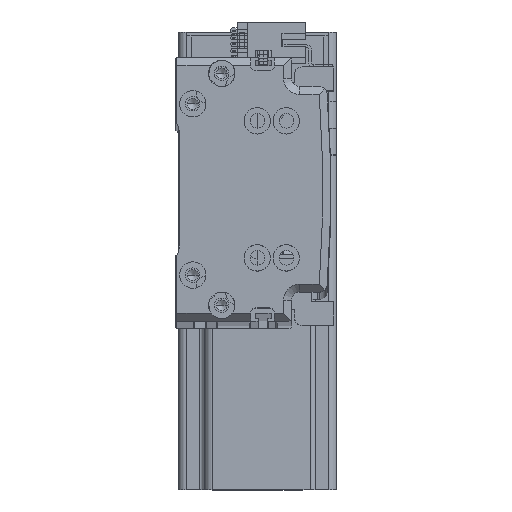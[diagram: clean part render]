
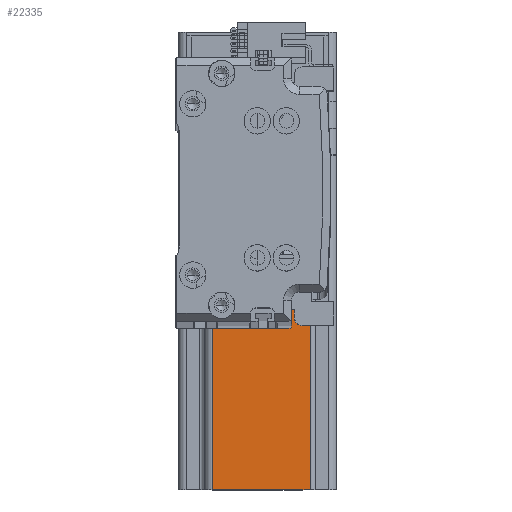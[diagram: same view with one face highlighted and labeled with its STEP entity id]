
A CAD part, top view. The second image highlights one B-rep face of the part: STEP entity #22335.
In plain terms, the highlighted planar face has unit normal (0, 0, 1) as drawn and (-1, 0, 0) by its records, which use the part's own axes.
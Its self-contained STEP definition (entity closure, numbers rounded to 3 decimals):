
#2361 = CARTESIAN_POINT ( 'NONE',  ( -30., 20., 10. ) ) ;
#2550 = EDGE_CURVE ( 'NONE', #15546, #46098, #4956, .T. ) ;
#2767 = DIRECTION ( 'NONE',  ( 1., 0., 0. ) ) ;
#2774 = ORIENTED_EDGE ( 'NONE', *, *, #22106, .T. ) ;
#3298 = VERTEX_POINT ( 'NONE', #4796 ) ;
#3593 = DIRECTION ( 'NONE',  ( 0., 1., 0. ) ) ;
#3695 = CARTESIAN_POINT ( 'NONE',  ( -30., 27., 0. ) ) ;
#4796 = CARTESIAN_POINT ( 'NONE',  ( -30., -17., 10. ) ) ;
#4956 = LINE ( 'NONE', #27091, #27059 ) ;
#6266 = DIRECTION ( 'NONE',  ( 0., 0., -1. ) ) ;
#8150 = EDGE_CURVE ( 'NONE', #3298, #56880, #13225, .T. ) ;
#9564 = DIRECTION ( 'NONE',  ( 0., 0., 1. ) ) ;
#11564 = LINE ( 'NONE', #47998, #60408 ) ;
#12725 = CARTESIAN_POINT ( 'NONE',  ( -30., 20., 137. ) ) ;
#13225 = LINE ( 'NONE', #27530, #59136 ) ;
#14078 = EDGE_CURVE ( 'NONE', #37913, #54744, #21524, .T. ) ;
#15133 = DIRECTION ( 'NONE',  ( 0., 0., 1. ) ) ;
#15182 = LINE ( 'NONE', #27011, #26270 ) ;
#15184 = ORIENTED_EDGE ( 'NONE', *, *, #2550, .T. ) ;
#15546 = VERTEX_POINT ( 'NONE', #2361 ) ;
#20332 = VECTOR ( 'NONE', #9564, 1000. ) ;
#21524 = LINE ( 'NONE', #56579, #45244 ) ;
#22106 = EDGE_CURVE ( 'NONE', #37931, #56880, #11564, .T. ) ;
#22335 = ADVANCED_FACE ( 'NONE', ( #26324 ), #35585, .F. ) ;
#23803 = CARTESIAN_POINT ( 'NONE',  ( -30., -17., 137. ) ) ;
#24975 = LINE ( 'NONE', #34506, #61256 ) ;
#25798 = DIRECTION ( 'NONE',  ( 0., -1., 0. ) ) ;
#26270 = VECTOR ( 'NONE', #31792, 1000. ) ;
#26324 = FACE_OUTER_BOUND ( 'NONE', #32175, .T. ) ;
#27011 = CARTESIAN_POINT ( 'NONE',  ( -30., 20., 10. ) ) ;
#27059 = VECTOR ( 'NONE', #3593, 1000. ) ;
#27091 = CARTESIAN_POINT ( 'NONE',  ( -30., 30., 10. ) ) ;
#27530 = CARTESIAN_POINT ( 'NONE',  ( -30., -30., 10. ) ) ;
#28246 = DIRECTION ( 'NONE',  ( 0., -1., 0. ) ) ;
#30006 = ORIENTED_EDGE ( 'NONE', *, *, #45113, .T. ) ;
#31061 = CARTESIAN_POINT ( 'NONE',  ( -30., -30., 137. ) ) ;
#31252 = ORIENTED_EDGE ( 'NONE', *, *, #14078, .F. ) ;
#31792 = DIRECTION ( 'NONE',  ( 0., 0., 1. ) ) ;
#32175 = EDGE_LOOP ( 'NONE', ( #54148, #30006, #31252, #34702, #15184, #60599, #52329, #2774 ) ) ;
#32373 = VERTEX_POINT ( 'NONE', #3695 ) ;
#32924 = LINE ( 'NONE', #23803, #20332 ) ;
#33781 = AXIS2_PLACEMENT_3D ( 'NONE', #31061, #2767, #35793 ) ;
#34506 = CARTESIAN_POINT ( 'NONE',  ( -30., 27., 137. ) ) ;
#34702 = ORIENTED_EDGE ( 'NONE', *, *, #50318, .F. ) ;
#35585 = PLANE ( 'NONE',  #33781 ) ;
#35793 = DIRECTION ( 'NONE',  ( 0., 0., -1. ) ) ;
#37062 = DIRECTION ( 'NONE',  ( 0., -1., 0. ) ) ;
#37913 = VERTEX_POINT ( 'NONE', #12725 ) ;
#37931 = VERTEX_POINT ( 'NONE', #55924 ) ;
#41661 = EDGE_CURVE ( 'NONE', #32373, #37931, #59677, .T. ) ;
#45113 = EDGE_CURVE ( 'NONE', #3298, #54744, #32924, .T. ) ;
#45244 = VECTOR ( 'NONE', #28246, 1000. ) ;
#46098 = VERTEX_POINT ( 'NONE', #52330 ) ;
#47014 = VECTOR ( 'NONE', #25798, 1000. ) ;
#47998 = CARTESIAN_POINT ( 'NONE',  ( -30., -27., 137. ) ) ;
#50318 = EDGE_CURVE ( 'NONE', #15546, #37913, #15182, .T. ) ;
#52329 = ORIENTED_EDGE ( 'NONE', *, *, #41661, .T. ) ;
#52330 = CARTESIAN_POINT ( 'NONE',  ( -30., 27., 10. ) ) ;
#54148 = ORIENTED_EDGE ( 'NONE', *, *, #8150, .F. ) ;
#54744 = VERTEX_POINT ( 'NONE', #60795 ) ;
#55924 = CARTESIAN_POINT ( 'NONE',  ( -30., -27., 0. ) ) ;
#56111 = EDGE_CURVE ( 'NONE', #46098, #32373, #24975, .T. ) ;
#56579 = CARTESIAN_POINT ( 'NONE',  ( -30., -30., 137. ) ) ;
#56880 = VERTEX_POINT ( 'NONE', #60493 ) ;
#58920 = CARTESIAN_POINT ( 'NONE',  ( -30., -30., 0. ) ) ;
#59136 = VECTOR ( 'NONE', #37062, 1000. ) ;
#59677 = LINE ( 'NONE', #58920, #47014 ) ;
#60408 = VECTOR ( 'NONE', #15133, 1000. ) ;
#60493 = CARTESIAN_POINT ( 'NONE',  ( -30., -27., 10. ) ) ;
#60599 = ORIENTED_EDGE ( 'NONE', *, *, #56111, .T. ) ;
#60795 = CARTESIAN_POINT ( 'NONE',  ( -30., -17., 137. ) ) ;
#61256 = VECTOR ( 'NONE', #6266, 1000. ) ;
